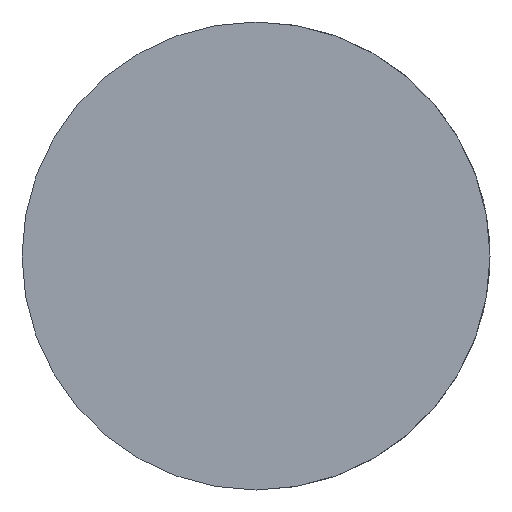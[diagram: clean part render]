
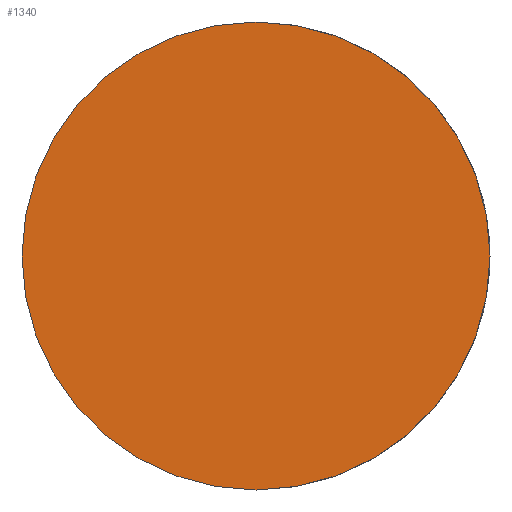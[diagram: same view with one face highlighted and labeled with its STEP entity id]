
A CAD part, front view. The second image highlights one B-rep face of the part: STEP entity #1340.
In plain terms, the highlighted planar face has unit normal (0, -1, 0).
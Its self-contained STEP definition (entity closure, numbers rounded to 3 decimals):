
#37 = PLANE ( 'NONE',  #827 ) ;
#137 = ORIENTED_EDGE ( 'NONE', *, *, #265, .T. ) ;
#162 = CARTESIAN_POINT ( 'NONE',  ( 0., 0., 75. ) ) ;
#183 = CARTESIAN_POINT ( 'NONE',  ( 0., 0., 0. ) ) ;
#228 = AXIS2_PLACEMENT_3D ( 'NONE', #183, #1035, #1918 ) ;
#265 = EDGE_CURVE ( 'NONE', #294, #582, #669, .T. ) ;
#294 = VERTEX_POINT ( 'NONE', #162 ) ;
#302 = DIRECTION ( 'NONE',  ( 0., 0., -1. ) ) ;
#582 = VERTEX_POINT ( 'NONE', #839 ) ;
#669 = CIRCLE ( 'NONE', #228, 75. ) ;
#827 = AXIS2_PLACEMENT_3D ( 'NONE', #1326, #2033, #977 ) ;
#839 = CARTESIAN_POINT ( 'NONE',  ( 0., 0., -75. ) ) ;
#977 = DIRECTION ( 'NONE',  ( 0., 0., -1. ) ) ;
#1035 = DIRECTION ( 'NONE',  ( 0., -1., 0. ) ) ;
#1088 = CIRCLE ( 'NONE', #2203, 75. ) ;
#1319 = ORIENTED_EDGE ( 'NONE', *, *, #1890, .T. ) ;
#1326 = CARTESIAN_POINT ( 'NONE',  ( 0., 0., 0. ) ) ;
#1333 = DIRECTION ( 'NONE',  ( 0., -1., 0. ) ) ;
#1340 = ADVANCED_FACE ( 'NONE', ( #1851 ), #37, .T. ) ;
#1851 = FACE_OUTER_BOUND ( 'NONE', #2021, .T. ) ;
#1890 = EDGE_CURVE ( 'NONE', #582, #294, #1088, .T. ) ;
#1918 = DIRECTION ( 'NONE',  ( 0., 0., -1. ) ) ;
#2021 = EDGE_LOOP ( 'NONE', ( #137, #1319 ) ) ;
#2031 = CARTESIAN_POINT ( 'NONE',  ( 0., 0., 0. ) ) ;
#2033 = DIRECTION ( 'NONE',  ( 0., -1., 0. ) ) ;
#2203 = AXIS2_PLACEMENT_3D ( 'NONE', #2031, #1333, #302 ) ;
